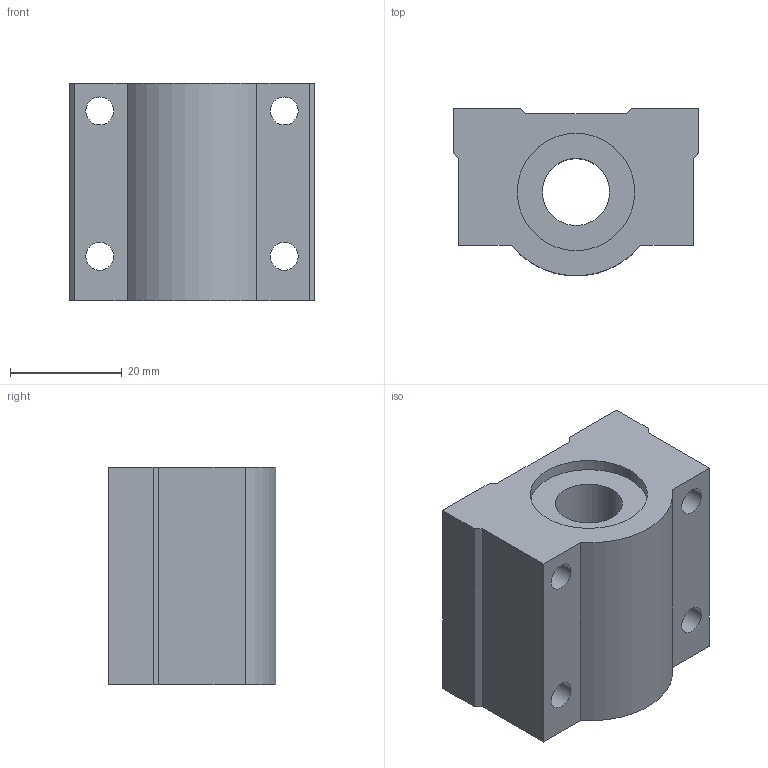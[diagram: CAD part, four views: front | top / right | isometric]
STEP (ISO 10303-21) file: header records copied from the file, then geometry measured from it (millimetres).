
FILE_DESCRIPTION((''),'2;1');
FILE_NAME('C:\Documents and Settings\ｿﾀﾀ蠑ｷ1\ｹﾙﾅﾁ ﾈｭｸ饅\ｺﾎﾇｰﾆﾄﾀﾏ\ﾁｦﾇｰ\SC__UU\SC12UU.stp','2005-06-22T14:42:40',('ｿﾀﾀ蠑ｷ1'),(''),'Autodesk Inventor 9','Autodesk Inventor 9','');
FILE_SCHEMA(('AUTOMOTIVE_DESIGN { 1 0 10303 214 1 1 1 1 }'));
Length unit declared in the file: millimetre
Products named in the file (1): SC__UU
Bounding box: 44 x 29.95 x 39 mm (x, y, z)
Volume: 36249.7 mm3; surface area: 10430.5 mm2
Topology: 1 solids, 1 shells, 32 faces, 84 edges, 56 vertices
Faces by surface type: plane 17, bspline 8, cylinder 7
Entity records: 1145 total; most frequent: CARTESIAN_POINT 309, ORIENTED_EDGE 168, DIRECTION 164, EDGE_CURVE 84, VERTEX_POINT 56, AXIS2_PLACEMENT_3D 55, VECTOR 54, LINE 54
